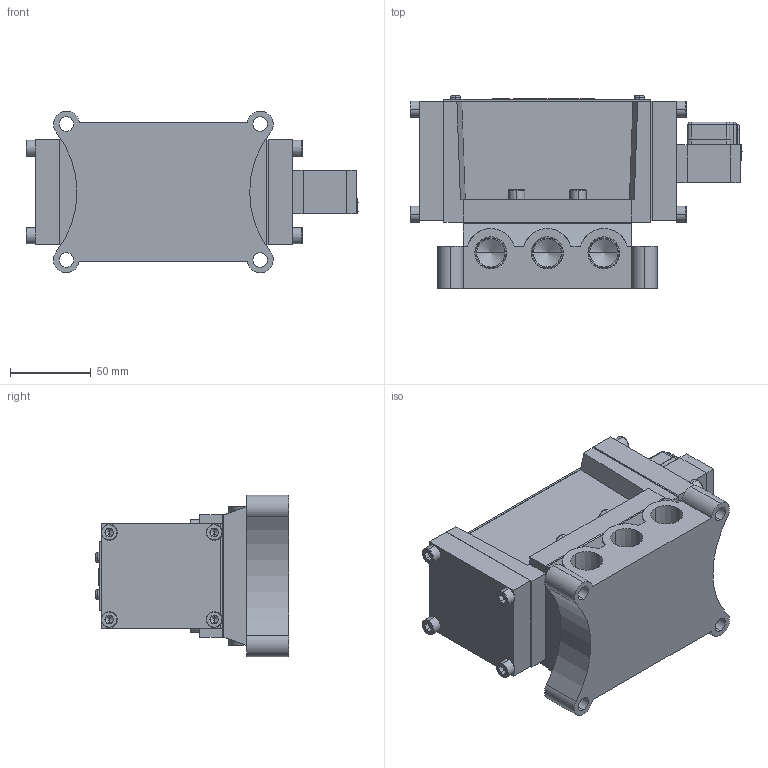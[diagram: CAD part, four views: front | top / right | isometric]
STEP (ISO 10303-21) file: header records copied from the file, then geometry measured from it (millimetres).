
FILE_DESCRIPTION (( 'STEP AP203' ), '1' );
FILE_NAME ('PMS2415#-04-#G#.STEP', '2016-03-09T08:53:32', ( 'Sam Lin' ), ( '' ), 'SwSTEP 2.0', 'SolidWorks 2013', '' );
FILE_SCHEMA (( 'CONFIG_CONTROL_DESIGN' ));
Length unit declared in the file: metre
Products named in the file (16): PM06-G1; PM06-C3-M4; PMS2415#-04-#G#; ISO 4762 M6 x 12; PMS2415-7; PMS2415-1; PMS2415-6; PMS2415-2; PM06-C1; PMS2415-3; PM06-C4; PMS2415-4; PM06-C6-M3; PM15-MARK-24; PM06-C5; PMS2415-5
Assembly tree (30 placements, depth 2):
  PMS2415#-04-#G#
    PMS2415-1
    PMS2415-2
    PMS2415-3
    PMS2415-4  x2
    PM15-MARK-24
    PMS2415-5
    PM06-C3-M4  x3
    ISO 4762 M6 x 12  x12
    PMS2415-7
    PMS2415-6
    PM06-C1
    PM06-C4
    PM06-C6-M3  x2
    PM06-C5
    PM06-G1
Bounding box: 205.5 x 119.55 x 99.99 mm (x, y, z)
Volume: 1049820 mm3; surface area: 186527 mm2
Topology: 36 solids, 36 shells, 859 faces, 2011 edges, 1224 vertices
Faces by surface type: plane 459, cylinder 185, cone 113, bspline 98, torus 4
Entity records: 16351 total; most frequent: CARTESIAN_POINT 3802, DIRECTION 2191, ORIENTED_EDGE 2134, EDGE_CURVE 1067, AXIS2_PLACEMENT_3D 779, VERTEX_POINT 684, LINE 633, VECTOR 633
